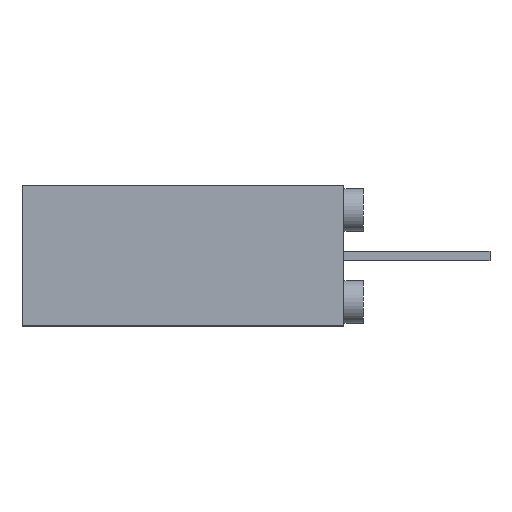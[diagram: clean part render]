
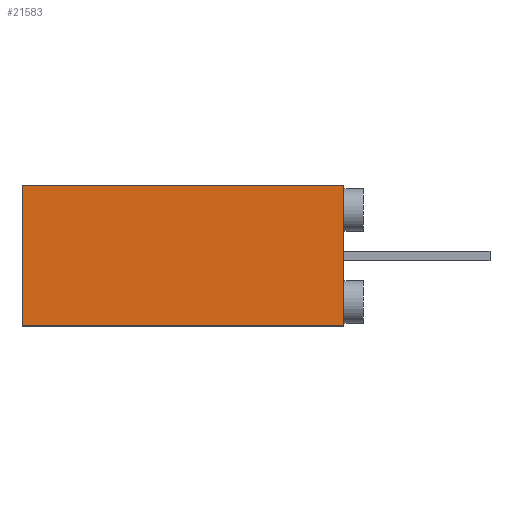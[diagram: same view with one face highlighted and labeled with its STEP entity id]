
A CAD part, left-side view. The second image highlights one B-rep face of the part: STEP entity #21583.
In plain terms, the highlighted planar face has unit normal (-1, 0.004, 0).
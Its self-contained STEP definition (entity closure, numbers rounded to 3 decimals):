
#479 = CARTESIAN_POINT ( 'NONE',  ( -7.55, 0.002, -1.813 ) ) ;
#493 = CARTESIAN_POINT ( 'NONE',  ( -7.513, 8.394, -1.813 ) ) ;
#494 = DIRECTION ( 'NONE',  ( -0.004, -1., 0. ) ) ;
#495 = VECTOR ( 'NONE', #494, 1000. ) ;
#496 = CARTESIAN_POINT ( 'NONE',  ( -7.513, 8.394, -1.813 ) ) ;
#497 = LINE ( 'NONE', #496, #495 ) ;
#21583 = ADVANCED_FACE ( 'NONE', ( #46253 ), #46251, .T. ) ;
#21584 = EDGE_LOOP ( 'NONE', ( #21585, #21586, #21640, #21641 ) ) ;
#21585 = ORIENTED_EDGE ( 'NONE', *, *, #21810, .T. ) ;
#21586 = ORIENTED_EDGE ( 'NONE', *, *, #21606, .T. ) ;
#21606 = EDGE_CURVE ( 'NONE', #21818, #21624, #46342, .T. ) ;
#21613 = VERTEX_POINT ( 'NONE', #46322 ) ;
#21615 = EDGE_CURVE ( 'NONE', #21624, #21613, #46320, .T. ) ;
#21624 = VERTEX_POINT ( 'NONE', #46381 ) ;
#21640 = ORIENTED_EDGE ( 'NONE', *, *, #21615, .T. ) ;
#21641 = ORIENTED_EDGE ( 'NONE', *, *, #21660, .T. ) ;
#21660 = EDGE_CURVE ( 'NONE', #21613, #21811, #46406, .T. ) ;
#21810 = EDGE_CURVE ( 'NONE', #21811, #21818, #497, .T. ) ;
#21811 = VERTEX_POINT ( 'NONE', #493 ) ;
#21818 = VERTEX_POINT ( 'NONE', #479 ) ;
#46247 = DIRECTION ( 'NONE',  ( -0.004, -1., 0. ) ) ;
#46248 = DIRECTION ( 'NONE',  ( -1., 0.004, 0. ) ) ;
#46249 = CARTESIAN_POINT ( 'NONE',  ( -7.55, 0.002, -1.813 ) ) ;
#46250 = AXIS2_PLACEMENT_3D ( 'NONE', #46249, #46248, #46247 ) ;
#46251 = PLANE ( 'NONE',  #46250 ) ;
#46253 = FACE_OUTER_BOUND ( 'NONE', #21584, .T. ) ;
#46317 = DIRECTION ( 'NONE',  ( 0.004, 1., 0. ) ) ;
#46318 = VECTOR ( 'NONE', #46317, 1000. ) ;
#46319 = CARTESIAN_POINT ( 'NONE',  ( -7.513, 8.394, 1.85 ) ) ;
#46320 = LINE ( 'NONE', #46319, #46318 ) ;
#46322 = CARTESIAN_POINT ( 'NONE',  ( -7.513, 8.394, 1.85 ) ) ;
#46339 = DIRECTION ( 'NONE',  ( 0., 0., 1. ) ) ;
#46340 = VECTOR ( 'NONE', #46339, 1000. ) ;
#46341 = CARTESIAN_POINT ( 'NONE',  ( -7.55, 0.002, -1.813 ) ) ;
#46342 = LINE ( 'NONE', #46341, #46340 ) ;
#46381 = CARTESIAN_POINT ( 'NONE',  ( -7.55, 0.002, 1.85 ) ) ;
#46403 = DIRECTION ( 'NONE',  ( 0., 0., -1. ) ) ;
#46404 = VECTOR ( 'NONE', #46403, 1000. ) ;
#46405 = CARTESIAN_POINT ( 'NONE',  ( -7.513, 8.394, -1.813 ) ) ;
#46406 = LINE ( 'NONE', #46405, #46404 ) ;
